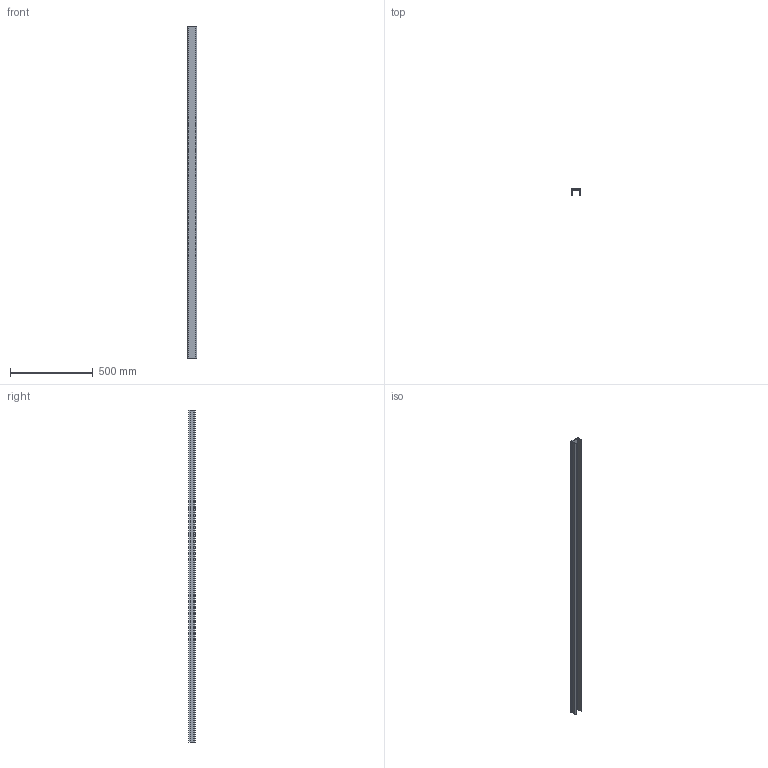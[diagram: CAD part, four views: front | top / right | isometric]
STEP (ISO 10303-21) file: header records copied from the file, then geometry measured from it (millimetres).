
FILE_DESCRIPTION (( 'STEP AP203' ), '1' );
FILE_NAME ('645656P.STEP', '2016-06-24T15:20:11', ( 'Dorner' ), ( 'Dorner Mfg Corp' ), 'SwSTEP 2.0', 'SolidWorks 2015', '' );
FILE_SCHEMA (( 'CONFIG_CONTROL_DESIGN' ));
Length unit declared in the file: inch
Products named in the file (1): 645656P
Bounding box: 57.91 x 37.59 x 2000.1 mm (x, y, z)
Volume: 1449840 mm3; surface area: 499095.8 mm2
Topology: 1 solids, 1 shells, 16 faces, 42 edges, 28 vertices
Faces by surface type: plane 14, cylinder 2
Entity records: 569 total; most frequent: CARTESIAN_POINT 87, ORIENTED_EDGE 84, DIRECTION 80, EDGE_CURVE 42, VECTOR 38, LINE 38, VERTEX_POINT 28, AXIS2_PLACEMENT_3D 21
